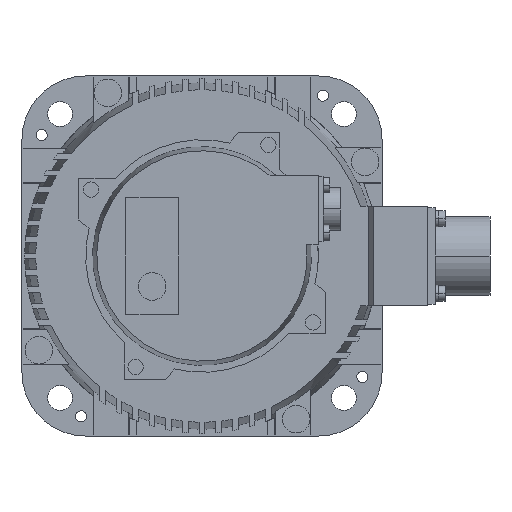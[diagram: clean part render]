
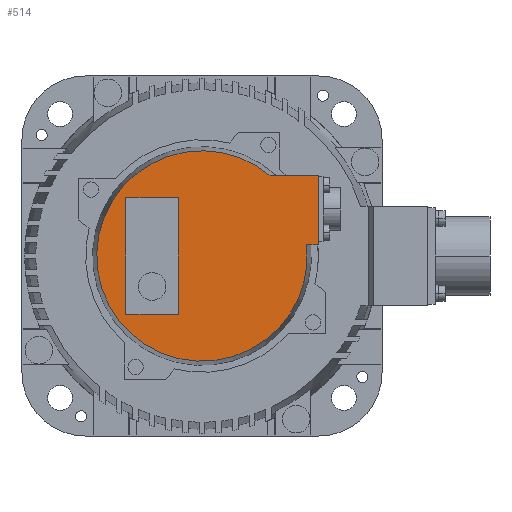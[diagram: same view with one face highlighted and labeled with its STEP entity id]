
A CAD part, left-side view. The second image highlights one B-rep face of the part: STEP entity #514.
In plain terms, the highlighted planar face has unit normal (-1, 0, 0).
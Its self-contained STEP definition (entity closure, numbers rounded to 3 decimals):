
#514=ADVANCED_FACE('',(#4852,#4853),#4851,.F.);
#4851=PLANE('',#9673);
#4852=FACE_OUTER_BOUND('',#9674,.T.);
#4853=FACE_BOUND('',#9675,.T.);
#9670=CARTESIAN_POINT('',(-135.,-52.891,71.254));
#9671=DIRECTION('',(1.,0.,0.));
#9672=DIRECTION('',(0.,0.,-1.));
#9673=AXIS2_PLACEMENT_3D('',#9670,#9671,#9672);
#9674=EDGE_LOOP('',(#13241,#13242,#13243,#13244));
#9675=EDGE_LOOP('',(#13245,#13246,#13247,#13248));
#13241=ORIENTED_EDGE('',*,*,#15298,.F.);
#13242=ORIENTED_EDGE('',*,*,#14801,.F.);
#13243=ORIENTED_EDGE('',*,*,#16154,.F.);
#13244=ORIENTED_EDGE('',*,*,#14793,.F.);
#13245=ORIENTED_EDGE('',*,*,#16118,.F.);
#13246=ORIENTED_EDGE('',*,*,#16122,.F.);
#13247=ORIENTED_EDGE('',*,*,#16125,.F.);
#13248=ORIENTED_EDGE('',*,*,#16128,.F.);
#14793=EDGE_CURVE('',#16767,#16774,#16775,.T.);
#14801=EDGE_CURVE('',#16821,#16828,#16829,.T.);
#15298=EDGE_CURVE('',#16828,#16767,#20210,.T.);
#16118=EDGE_CURVE('',#25711,#25712,#25713,.T.);
#16122=EDGE_CURVE('',#25739,#25711,#25740,.T.);
#16125=EDGE_CURVE('',#25759,#25739,#25760,.T.);
#16128=EDGE_CURVE('',#25712,#25759,#25779,.T.);
#16154=EDGE_CURVE('',#16774,#16821,#25955,.T.);
#16767=VERTEX_POINT('',#28758);
#16774=VERTEX_POINT('',#28763);
#16775=LINE('',#28764,#28765);
#16821=VERTEX_POINT('',#28790);
#16828=VERTEX_POINT('',#28794);
#16829=LINE('',#28795,#28796);
#20210=CIRCLE('',#30806,38.);
#25711=VERTEX_POINT('',#34248);
#25712=VERTEX_POINT('',#34249);
#25713=LINE('',#34250,#34251);
#25739=VERTEX_POINT('',#34264);
#25740=LINE('',#34265,#34266);
#25759=VERTEX_POINT('',#34275);
#25760=LINE('',#34276,#34277);
#25779=LINE('',#34286,#34287);
#25955=LINE('',#34396,#34397);
#28758=CARTESIAN_POINT('',(-135.,-24.556,29.));
#28763=CARTESIAN_POINT('',(-135.,-42.,29.));
#28764=CARTESIAN_POINT('',(-135.,-24.556,29.));
#28765=VECTOR('',#28766,17.444);
#28766=DIRECTION('',(0.,-1.,0.));
#28790=CARTESIAN_POINT('',(-135.,-42.,4.));
#28794=CARTESIAN_POINT('',(-135.,-37.789,4.));
#28795=CARTESIAN_POINT('',(-135.,-42.,4.));
#28796=VECTOR('',#28797,4.211);
#28797=DIRECTION('',(0.,1.,0.));
#30803=CARTESIAN_POINT('',(-135.,0.,0.));
#30804=DIRECTION('',(1.,0.,0.));
#30805=DIRECTION('',(0.,-0.994,0.105));
#30806=AXIS2_PLACEMENT_3D('',#30803,#30804,#30805);
#34248=CARTESIAN_POINT('',(-135.,8.5,-21.));
#34249=CARTESIAN_POINT('',(-135.,8.5,21.));
#34250=CARTESIAN_POINT('',(-135.,8.5,-21.));
#34251=VECTOR('',#34252,42.);
#34252=DIRECTION('',(0.,0.,1.));
#34264=CARTESIAN_POINT('',(-135.,27.5,-21.));
#34265=CARTESIAN_POINT('',(-135.,27.5,-21.));
#34266=VECTOR('',#34267,19.);
#34267=DIRECTION('',(0.,-1.,0.));
#34275=CARTESIAN_POINT('',(-135.,27.5,21.));
#34276=CARTESIAN_POINT('',(-135.,27.5,21.));
#34277=VECTOR('',#34278,42.);
#34278=DIRECTION('',(0.,0.,-1.));
#34286=CARTESIAN_POINT('',(-135.,8.5,21.));
#34287=VECTOR('',#34288,19.);
#34288=DIRECTION('',(0.,1.,0.));
#34396=CARTESIAN_POINT('',(-135.,-42.,29.));
#34397=VECTOR('',#34398,25.);
#34398=DIRECTION('',(0.,0.,-1.));
